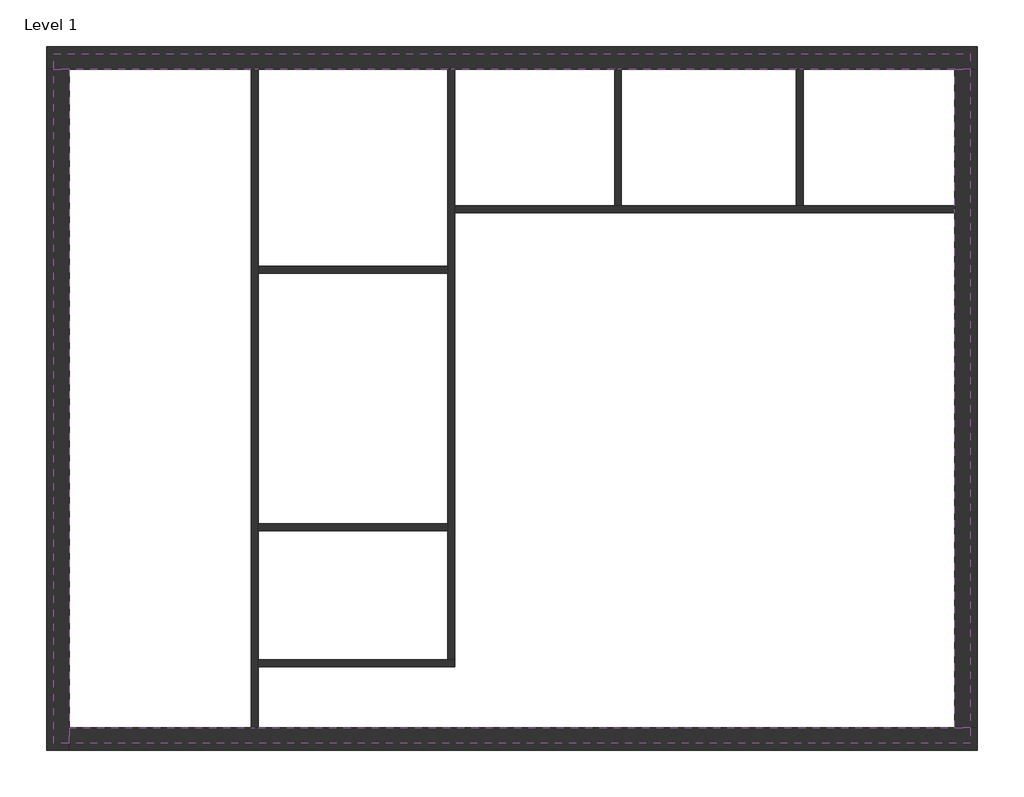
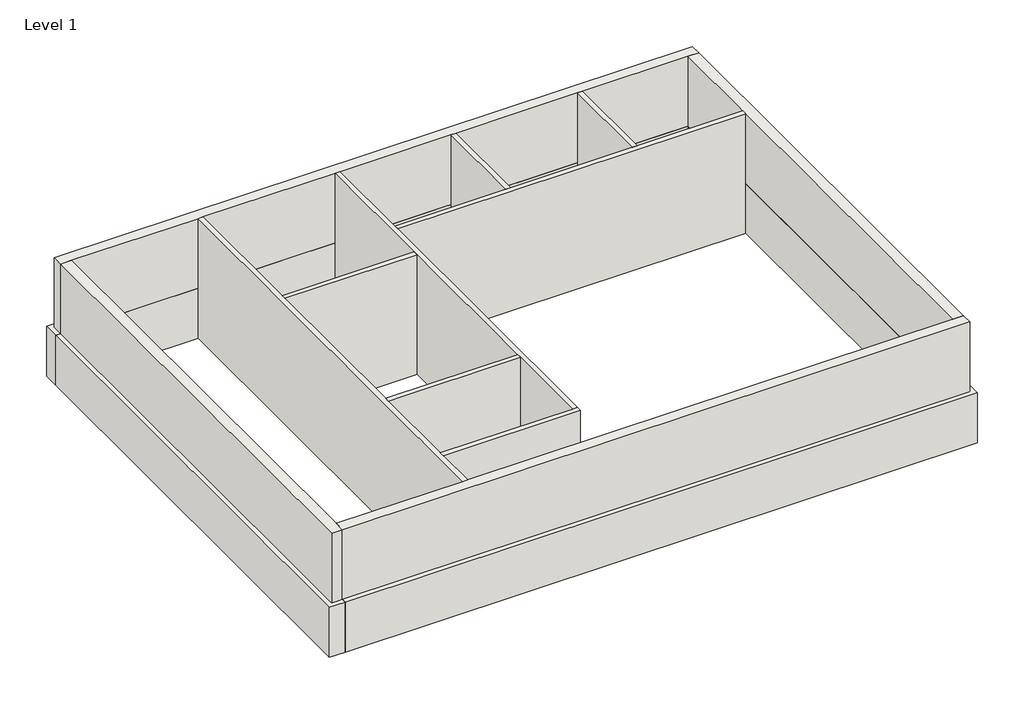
# One storey: 16 walls.
"""IFC4 building model written with IfcOpenShell, lengths in millimetres."""

import ifcopenshell
import ifcopenshell.guid

model = None  # the IFC model being written
_history = None  # IfcOwnerHistory: only IFC2X3 demands one
_inside = {}  # id of a spatial element -> (the spatial element, [elements in it])
_under = {}  # id of a project, library or spatial element -> (it, [spatial elements below it])
_declared = {}  # id of a project -> (the project, [libraries it declares])
_typed = {}  # id of a type object -> (the type object, [elements of that type])
_made_of = {}  # id of a material, layer set ... -> (it, [elements and type objects made of it])


def new_model(schema):
    """Start an empty IFC model of exactly this schema.

    Asked for "IFC4X3", IfcOpenShell would pick the latest addendum, in which some entities
    have other attributes; the version numbers below select the first issue.
    IFC2X3 requires an IfcOwnerHistory on every rooted entity: one is made here for all.
    """
    global model, _history
    if schema == "IFC4X3":
        model = ifcopenshell.file(schema_version=(4, 3, 0, 0))
    else:
        model = ifcopenshell.file(schema=schema)
    _inside.clear()
    _under.clear()
    _declared.clear()
    _typed.clear()
    _made_of.clear()
    _history = None
    if model.schema == "IFC2X3":
        org = make("IfcOrganization", Name="unknown")
        user = make(
            "IfcPersonAndOrganization",
            ThePerson=make("IfcPerson", FamilyName="unknown"),
            TheOrganization=org,
        )
        app = make(
            "IfcApplication",
            ApplicationDeveloper=org,
            Version="unknown",
            ApplicationFullName="unknown",
            ApplicationIdentifier="unknown",
        )
        _history = make(
            "IfcOwnerHistory",
            OwningUser=user,
            OwningApplication=app,
            ChangeAction="ADDED",
            CreationDate=0,
        )
    return model


def make(cls, **values):
    """One entity of the class cls with the attributes given. An attribute that is None is left unset."""
    return model.create_entity(
        cls, **{name: value for name, value in values.items() if value is not None}
    )


def rooted(cls, **values):
    """An entity with a GlobalId (a new one), such as an element, a storey or a relation."""
    return make(cls, GlobalId=ifcopenshell.guid.new(), OwnerHistory=_history, **values)


def si_unit(unit_type, name, prefix=None):
    """IfcSIUnit, for example si_unit("LENGTHUNIT", "METRE", prefix="MILLI")."""
    return make("IfcSIUnit", UnitType=unit_type, Prefix=prefix, Name=name)


def assignment(units):
    """IfcUnitAssignment: the units of a project."""
    return None if units is None else make("IfcUnitAssignment", Units=units)


def point(xyz):
    """IfcCartesianPoint."""
    return None if xyz is None else make("IfcCartesianPoint", Coordinates=xyz)


def direction(xyz):
    """IfcDirection."""
    return None if xyz is None else make("IfcDirection", DirectionRatios=xyz)


def frame(location, z_axis=None, x_axis=None):
    """IfcAxis2Placement3D, a coordinate frame: its origin and axes. An axis left out is left unset."""
    return make(
        "IfcAxis2Placement3D",
        Location=point(location),
        Axis=direction(z_axis),
        RefDirection=direction(x_axis),
    )


def origin():
    """The frame at (0, 0, 0) with its axes left unset."""
    return frame((0.0, 0.0, 0.0))


def origin_with_axes():
    """The frame at (0, 0, 0) with the z axis (0, 0, 1) and the x axis (1, 0, 0) written out."""
    return frame((0.0, 0.0, 0.0), z_axis=(0.0, 0.0, 1.0), x_axis=(1.0, 0.0, 0.0))


def place(relative_to, where):
    """IfcLocalPlacement: puts the frame where relative to a parent placement (None: the world)."""
    return make(
        "IfcLocalPlacement", PlacementRelTo=relative_to, RelativePlacement=where
    )


def context(
    kind, dimensions, precision=None, world=None, true_north=None, identifier=None
):
    """IfcGeometricRepresentationContext, for example the 3D "Model" context."""
    return make(
        "IfcGeometricRepresentationContext",
        ContextIdentifier=identifier,
        ContextType=kind,
        CoordinateSpaceDimension=dimensions,
        Precision=precision,
        WorldCoordinateSystem=world,
        TrueNorth=true_north,
    )


def project(units=None, contexts=None):
    """IfcProject with its units and contexts."""
    return rooted(
        "IfcProject",
        Name="project",
        RepresentationContexts=contexts,
        UnitsInContext=assignment(units),
    )


def spatial(cls, under=None, at=None, **own):
    """A site, building, storey or space (cls), placed at a placement, below another one or the project."""
    s = rooted(cls, ObjectPlacement=at, **own)
    if under is not None:
        _under.setdefault(under.id(), (under, []))[1].append(s)
    return s


def polyline(points):
    """IfcPolyline through the points."""
    return make("IfcPolyline", Points=[point(p) for p in points])


def outline(outer, holes=None, kind="AREA"):
    """IfcArbitraryClosedProfileDef: a profile drawn as a closed curve; with holes, ...WithVoids."""
    if holes is None:
        return make("IfcArbitraryClosedProfileDef", ProfileType=kind, OuterCurve=outer)
    return make(
        "IfcArbitraryProfileDefWithVoids",
        ProfileType=kind,
        OuterCurve=outer,
        InnerCurves=holes,
    )


def extrude(swept, where, along, depth):
    """IfcExtrudedAreaSolid: the profile swept, set in the frame where, extruded along a direction by depth."""
    return make(
        "IfcExtrudedAreaSolid",
        SweptArea=swept,
        Position=where,
        ExtrudedDirection=direction(along),
        Depth=depth,
    )


def faces_of(points, faces, orient=None, outer=None):
    """IfcFace entities. A face is a list of loops; a loop is a list of indices into points, from 0.

    orient and outer hold one flag for each loop. By default every Orientation is true, the
    first loop of a face is its IfcFaceOuterBound and the others are IfcFaceBound.
    """
    made = []
    for i, loops in enumerate(faces):
        bounds = []
        for j, loop in enumerate(loops):
            is_outer = j == 0 if outer is None else outer[i][j]
            bounds.append(
                make(
                    "IfcFaceOuterBound" if is_outer else "IfcFaceBound",
                    Bound=make("IfcPolyLoop", Polygon=[points[k] for k in loop]),
                    Orientation=True if orient is None else orient[i][j],
                )
            )
        made.append(make("IfcFace", Bounds=bounds))
    return made


def faceted_brep(points, faces, orient=None, outer=None, voids=None):
    """IfcFacetedBrep: a solid bounded by flat faces; with voids (closed shells), ...WithVoids."""
    shared = [point(p) for p in points]
    hull = make("IfcClosedShell", CfsFaces=faces_of(shared, faces, orient, outer))
    if voids is None:
        return make("IfcFacetedBrep", Outer=hull)
    return make(
        "IfcFacetedBrepWithVoids",
        Outer=hull,
        Voids=[
            make(cls, CfsFaces=faces_of(shared, fs, o, b)) for cls, fs, o, b in voids
        ],
    )


def shape(context_of_items, identifier, shape_type, items):
    """IfcShapeRepresentation: the items that make up one representation, for example the "Body"."""
    return make(
        "IfcShapeRepresentation",
        ContextOfItems=context_of_items,
        RepresentationIdentifier=identifier,
        RepresentationType=shape_type,
        Items=items,
    )


def made_of(thing, what):
    """Note that an element or type object is made of a material, layer set ...; save() writes the relation."""
    if what is not None:
        _made_of.setdefault(what.id(), (what, []))[1].append(thing)
    return thing


def element(
    cls,
    number,
    at=None,
    inside=None,
    cuts=None,
    type_object=None,
    material=None,
    context=None,
    identifier="Body",
    shape_type=None,
    held_by="IfcProductDefinitionShape",
    body=None,
    shapes=None,
    **own,
):
    """One element of the class cls, such as IfcWall. Its Tag is "e" and its number.

    at: its placement. inside: the storey or other place that contains it. cuts: it is an
    opening in that element (IfcRelVoidsElement). A single representation is given by context,
    identifier, shape_type and body (its items); several are given by shapes. held_by: the class
    of the entity that holds the representations. save() writes the other relations.
    """
    e = rooted(cls, Tag="e%d" % number, ObjectPlacement=at, **own)
    if body is not None:
        shapes = [shape(context, identifier, shape_type, body)]
    if shapes is not None:
        e.Representation = make(held_by, Representations=shapes)
    if inside is not None:
        _inside.setdefault(inside.id(), (inside, []))[1].append(e)
    if cuts is not None:
        rooted(
            "IfcRelVoidsElement", RelatingBuildingElement=cuts, RelatedOpeningElement=e
        )
    if type_object is not None:
        _typed.setdefault(type_object.id(), (type_object, []))[1].append(e)
    return made_of(e, material)


def aggregate(whole, parts):
    """IfcRelAggregates: a whole, such as a stair, and the parts it consists of."""
    return rooted("IfcRelAggregates", RelatingObject=whole, RelatedObjects=parts)


def save(model, path):
    """Write the relations noted so far, then the file.

    IfcRelAggregates (storeys below a building ...), IfcRelContainedInSpatialStructure (elements
    in a storey), IfcRelDefinesByType, IfcRelAssociatesMaterial and IfcRelDeclares: one each for
    every whole, place, type object, material and project.
    """
    for whole, parts in _under.values():
        aggregate(whole, parts)
    for where, things in _inside.values():
        rooted(
            "IfcRelContainedInSpatialStructure",
            RelatedElements=things,
            RelatingStructure=where,
        )
    for kind, things in _typed.values():
        rooted("IfcRelDefinesByType", RelatedObjects=things, RelatingType=kind)
    for what, things in _made_of.values():
        rooted("IfcRelAssociatesMaterial", RelatedObjects=things, RelatingMaterial=what)
    for by, libraries in _declared.values():
        rooted("IfcRelDeclares", RelatingContext=by, RelatedDefinitions=libraries)
    model.write(path)


model = new_model("IFC4")

# Units and contexts
model_context = context("Model", 3, world=origin())
ifc_project = project(units=[si_unit("LENGTHUNIT", "METRE", prefix="MILLI")], contexts=[model_context])

# Site, building, storey
site = spatial("IfcSite", under=ifc_project)
building = spatial("IfcBuilding", under=site)
storey = spatial("IfcBuildingStorey", under=building, Name="Level 1", Elevation=0.0)

# Walls
placement = place(None, origin())
element("IfcWall", 1, ObjectType="Exterior - CMU on Mtl. Stud", at=placement, inside=storey, context=model_context, shape_type="Brep", body=[
    faceted_brep([(-18418.3972136, 11690.2580992, 0.0), (-17964.3722136, 11690.2580992, 0.0), (-14298.8347136, 11690.2580992, 0.0), (-14159.1347136, 11690.2580992, 0.0), (-10336.4347136, 11690.2580992, 0.0), (-10196.7347136, 11690.2580992, 0.0), (-6983.6347136, 11690.2580992, 0.0), (-6843.9347136, 11690.2580992, 0.0), (-3326.0347136, 11690.2580992, 0.0), (-3186.3347136, 11690.2580992, 0.0), (-130.3972136, 11690.2580992, 0.0), (323.6277864, 11690.2580992, 0.0), (323.6277864, 11690.2580992, 1524.0), (180.7527864, 11690.2580992, 1524.0), (-130.3972136, 11690.2580992, 1524.0), (-17964.3722136, 11690.2580992, 1524.0), (-18275.5222136, 11690.2580992, 1524.0), (-18418.3972136, 11690.2580992, 1524.0), (-18418.3972136, 12144.2830992, 0.0), (-18418.3972136, 12144.2830992, 1524.0), (323.6277864, 12144.2830992, 1524.0), (323.6277864, 12144.2830992, 0.0)], [[[0, 1, 2, 3, 4, 5, 6, 7, 8, 9, 10, 11, 12, 13, 14, 15, 16, 17]], [[18, 19, 20, 21]], [[11, 10, 9, 8, 7, 6, 5, 4, 3, 2, 1, 0, 18, 21]], [[17, 16, 15, 14, 13, 12, 20, 19]], [[0, 17, 19, 18]], [[12, 11, 21, 20]]]),
])
element("IfcWall", 2, ObjectType="Exterior - CMU on Mtl. Stud", at=placement, inside=storey, context=model_context, shape_type="Brep", body=[
    faceted_brep([(-17964.3722136, -2025.7419008, 0.0), (-17964.3722136, -1571.7169008, 0.0), (-17964.3722136, 11690.2580992, 0.0), (-17964.3722136, 11690.2580992, 1524.0), (-17964.3722136, -1571.7169008, 1524.0), (-17964.3722136, -1882.8669008, 1524.0), (-17964.3722136, -2025.7419008, 1524.0), (-18418.3972136, -2025.7419008, 0.0), (-18418.3972136, -2025.7419008, 1524.0), (-18418.3972136, 11690.2580992, 1524.0), (-18418.3972136, 11690.2580992, 0.0), (-18275.5222136, 11690.2580992, 1524.0)], [[[0, 1, 2, 3, 4, 5, 6]], [[7, 8, 9, 10]], [[2, 1, 0, 7, 10]], [[6, 5, 4, 3, 11, 9, 8]], [[0, 6, 8, 7]], [[3, 2, 10, 9, 11]]]),
])
element("IfcWall", 3, ObjectType="Exterior - CMU on Mtl. Stud", at=placement, inside=storey, context=model_context, shape_type="Brep", body=[
    faceted_brep([(323.6277864, -1571.7169008, 0.0), (-130.3972136, -1571.7169008, 0.0), (-14159.1347136, -1571.7169008, 0.0), (-14298.8347136, -1571.7169008, 0.0), (-17964.3722136, -1571.7169008, 0.0), (-17964.3722136, -1571.7169008, 1524.0), (-130.3972136, -1571.7169008, 1524.0), (180.7527864, -1571.7169008, 1524.0), (323.6277864, -1571.7169008, 1524.0), (323.6277864, -2025.7419008, 0.0), (323.6277864, -2025.7419008, 1524.0), (-17964.3722136, -2025.7419008, 1524.0), (-17964.3722136, -2025.7419008, 0.0), (-17964.3722136, -1882.8669008, 1524.0)], [[[0, 1, 2, 3, 4, 5, 6, 7, 8]], [[9, 10, 11, 12]], [[4, 3, 2, 1, 0, 9, 12]], [[8, 7, 6, 5, 13, 11, 10]], [[0, 8, 10, 9]], [[5, 4, 12, 11, 13]]]),
])
element("IfcWall", 4, ObjectType="Exterior - CMU on Mtl. Stud", at=placement, inside=storey, context=model_context, shape_type="Brep", body=[
    faceted_brep([(-130.3972136, 11690.2580992, 0.0), (-130.3972136, 8939.1205992, 0.0), (-130.3972136, 8799.4205992, 0.0), (-130.3972136, -1571.7169008, 0.0), (-130.3972136, -1571.7169008, 1524.0), (-130.3972136, 11690.2580992, 1524.0), (323.6277864, 11690.2580992, 0.0), (323.6277864, 11690.2580992, 1524.0), (323.6277864, -1571.7169008, 1524.0), (323.6277864, -1571.7169008, 0.0), (180.7527864, -1571.7169008, 1524.0), (180.7527864, 11690.2580992, 1524.0)], [[[0, 1, 2, 3, 4, 5]], [[6, 7, 8, 9]], [[3, 2, 1, 0, 6, 9]], [[5, 4, 10, 8, 7, 11]], [[0, 5, 11, 7, 6]], [[4, 3, 9, 8, 10]]]),
])
element("IfcWall", 5, ObjectType="Exterior - EIFS on Mtl. Stud", at=placement, inside=storey, context=model_context, shape_type="Brep", body=[
    faceted_brep([(-18275.5222136, 11690.2580992, 1524.0), (-17964.3722136, 11690.2580992, 1524.0), (-130.3972136, 11690.2580992, 1524.0), (180.7527864, 11690.2580992, 1524.0), (180.7527864, 11690.2580992, 3657.6), (-130.3972136, 11690.2580992, 3657.6), (-3186.3347136, 11690.2580992, 3657.6), (-3326.0347136, 11690.2580992, 3657.6), (-6843.9347136, 11690.2580992, 3657.6), (-6983.6347136, 11690.2580992, 3657.6), (-10196.7347136, 11690.2580992, 3657.6), (-10336.4347136, 11690.2580992, 3657.6), (-14159.1347136, 11690.2580992, 3657.6), (-14298.8347136, 11690.2580992, 3657.6), (-17964.3722136, 11690.2580992, 3657.6), (-18275.5222136, 11690.2580992, 3657.6), (-18275.5222136, 12001.4080992, 1524.0), (-18275.5222136, 12001.4080992, 3657.6), (180.7527864, 12001.4080992, 3657.6), (180.7527864, 12001.4080992, 1524.0)], [[[0, 1, 2, 3, 4, 5, 6, 7, 8, 9, 10, 11, 12, 13, 14, 15]], [[16, 17, 18, 19]], [[3, 2, 1, 0, 16, 19]], [[15, 14, 13, 12, 11, 10, 9, 8, 7, 6, 5, 4, 18, 17]], [[0, 15, 17, 16]], [[4, 3, 19, 18]]]),
])
element("IfcWall", 6, ObjectType="Exterior - EIFS on Mtl. Stud", at=placement, inside=storey, context=model_context, shape_type="Brep", body=[
    faceted_brep([(-17964.3722136, -1882.8669008, 1524.0), (-17964.3722136, -1571.7169008, 1524.0), (-17964.3722136, 11690.2580992, 1524.0), (-17964.3722136, 11690.2580992, 3657.6), (-17964.3722136, -1571.7169008, 3657.6), (-17964.3722136, -1882.8669008, 3657.6), (-18275.5222136, -1882.8669008, 1524.0), (-18275.5222136, -1882.8669008, 3657.6), (-18275.5222136, 11690.2580992, 3657.6), (-18275.5222136, 11690.2580992, 1524.0)], [[[0, 1, 2, 3, 4, 5]], [[6, 7, 8, 9]], [[2, 1, 0, 6, 9]], [[5, 4, 3, 8, 7]], [[0, 5, 7, 6]], [[3, 2, 9, 8]]]),
])
element("IfcWall", 7, ObjectType="Exterior - EIFS on Mtl. Stud", at=placement, inside=storey, context=model_context, shape_type="Brep", body=[
    faceted_brep([(180.7527864, -1571.7169008, 1524.0), (-130.3972136, -1571.7169008, 1524.0), (-17964.3722136, -1571.7169008, 1524.0), (-17964.3722136, -1571.7169008, 3657.6), (-14298.8347136, -1571.7169008, 3657.6), (-14159.1347136, -1571.7169008, 3657.6), (-130.3972136, -1571.7169008, 3657.6), (180.7527864, -1571.7169008, 3657.6), (180.7527864, -1882.8669008, 1524.0), (180.7527864, -1882.8669008, 3657.6), (-17964.3722136, -1882.8669008, 3657.6), (-17964.3722136, -1882.8669008, 1524.0)], [[[0, 1, 2, 3, 4, 5, 6, 7]], [[8, 9, 10, 11]], [[2, 1, 0, 8, 11]], [[7, 6, 5, 4, 3, 10, 9]], [[0, 7, 9, 8]], [[3, 2, 11, 10]]]),
])
element("IfcWall", 8, ObjectType="Exterior - EIFS on Mtl. Stud", at=placement, inside=storey, context=model_context, shape_type="Brep", body=[
    faceted_brep([(-130.3972136, 11690.2580992, 1524.0), (-130.3972136, -1571.7169008, 1524.0), (-130.3972136, -1571.7169008, 3657.6), (-130.3972136, 8799.4205992, 3657.6), (-130.3972136, 8939.1205992, 3657.6), (-130.3972136, 11690.2580992, 3657.6), (180.7527864, 11690.2580992, 1524.0), (180.7527864, 11690.2580992, 3657.6), (180.7527864, -1571.7169008, 3657.6), (180.7527864, -1571.7169008, 1524.0)], [[[0, 1, 2, 3, 4, 5]], [[6, 7, 8, 9]], [[1, 0, 6, 9]], [[5, 4, 3, 2, 8, 7]], [[0, 5, 7, 6]], [[2, 1, 9, 8]]]),
])
element("IfcWall", 9, ObjectType="Interior - 5 1/2\" Partition (1-hr)", at=placement, inside=storey, context=model_context, shape_type="Brep", body=[
    faceted_brep([(-14298.8347136, 11690.2580992, 3657.6), (-14298.8347136, 11690.2580992, 0.0), (-14298.8347136, -1571.7169008, 0.0), (-14298.8347136, -1571.7169008, 3657.6), (-14159.1347136, 11690.2580992, 0.0), (-14159.1347136, 11690.2580992, 3657.6), (-14159.1347136, 7719.9205992, 3657.6), (-14159.1347136, 7580.2205992, 3657.6), (-14159.1347136, 2538.3205992, 3657.6), (-14159.1347136, 2398.6205992, 3657.6), (-14159.1347136, -204.8794008, 3657.6), (-14159.1347136, -344.5794008, 3657.6), (-14159.1347136, -1571.7169008, 3657.6), (-14159.1347136, -1571.7169008, 0.0), (-14159.1347136, -344.5794008, 0.0), (-14159.1347136, -204.8794008, 0.0), (-14159.1347136, 2398.6205992, 0.0), (-14159.1347136, 2538.3205992, 0.0), (-14159.1347136, 7580.2205992, 0.0), (-14159.1347136, 7719.9205992, 0.0)], [[[0, 1, 2, 3]], [[4, 5, 6, 7, 8, 9, 10, 11, 12, 13, 14, 15, 16, 17, 18, 19]], [[2, 1, 4, 19, 18, 17, 16, 15, 14, 13]], [[0, 3, 12, 11, 10, 9, 8, 7, 6, 5]], [[0, 5, 4, 1]], [[2, 13, 12, 3]]]),
])
element("IfcWall", 10, ObjectType="Interior - 5 1/2\" Partition (1-hr)", at=placement, inside=storey, context=model_context, shape_type="Brep", body=[
    faceted_brep([(-14159.1347136, -344.5794008, 0.0), (-10196.7347136, -344.5794008, 0.0), (-10196.7347136, -344.5794008, 3657.6), (-14159.1347136, -344.5794008, 3657.6), (-14159.1347136, -204.8794008, 0.0), (-14159.1347136, -204.8794008, 3657.6), (-10336.4347136, -204.8794008, 3657.6), (-10196.7347136, -204.8794008, 3657.6), (-10196.7347136, -204.8794008, 0.0), (-10336.4347136, -204.8794008, 0.0)], [[[0, 1, 2, 3]], [[4, 5, 6, 7, 8, 9]], [[1, 0, 4, 9, 8]], [[3, 2, 7, 6, 5]], [[0, 3, 5, 4]], [[2, 1, 8, 7]]]),
])
element("IfcWall", 11, ObjectType="Interior - 5 1/2\" Partition (1-hr)", at=placement, inside=storey, context=model_context, shape_type="Brep", body=[
    faceted_brep([(-10196.7347136, -204.8794008, 0.0), (-10196.7347136, 8799.4205992, 0.0), (-10196.7347136, 8939.1205992, 0.0), (-10196.7347136, 11690.2580992, 0.0), (-10196.7347136, 11690.2580992, 3657.6), (-10196.7347136, 8939.1205992, 3657.6), (-10196.7347136, 8799.4205992, 3657.6), (-10196.7347136, -204.8794008, 3657.6), (-10336.4347136, -204.8794008, 0.0), (-10336.4347136, -204.8794008, 3657.6), (-10336.4347136, 2398.6205992, 3657.6), (-10336.4347136, 2538.3205992, 3657.6), (-10336.4347136, 7580.2205992, 3657.6), (-10336.4347136, 7719.9205992, 3657.6), (-10336.4347136, 11690.2580992, 3657.6), (-10336.4347136, 11690.2580992, 0.0), (-10336.4347136, 7719.9205992, 0.0), (-10336.4347136, 7580.2205992, 0.0), (-10336.4347136, 2538.3205992, 0.0), (-10336.4347136, 2398.6205992, 0.0)], [[[0, 1, 2, 3, 4, 5, 6, 7]], [[8, 9, 10, 11, 12, 13, 14, 15, 16, 17, 18, 19]], [[3, 2, 1, 0, 8, 19, 18, 17, 16, 15]], [[7, 6, 5, 4, 14, 13, 12, 11, 10, 9]], [[0, 7, 9, 8]], [[3, 15, 14, 4]]]),
])
element("IfcWall", 12, ObjectType="Interior - 5 1/2\" Partition (1-hr)", at=placement, inside=storey, context=model_context, shape_type="Brep", body=[
    faceted_brep([(-130.3972136, 8939.1205992, 3657.6), (-130.3972136, 8939.1205992, 0.0), (-3186.3347136, 8939.1205992, 0.0), (-3326.0347136, 8939.1205992, 0.0), (-6843.9347136, 8939.1205992, 0.0), (-6983.6347136, 8939.1205992, 0.0), (-10196.7347136, 8939.1205992, 0.0), (-10196.7347136, 8939.1205992, 3657.6), (-6983.6347136, 8939.1205992, 3657.6), (-6843.9347136, 8939.1205992, 3657.6), (-3326.0347136, 8939.1205992, 3657.6), (-3186.3347136, 8939.1205992, 3657.6), (-130.3972136, 8799.4205992, 0.0), (-130.3972136, 8799.4205992, 3657.6), (-10196.7347136, 8799.4205992, 3657.6), (-10196.7347136, 8799.4205992, 0.0)], [[[0, 1, 2, 3, 4, 5, 6, 7, 8, 9, 10, 11]], [[12, 13, 14, 15]], [[6, 5, 4, 3, 2, 1, 12, 15]], [[0, 11, 10, 9, 8, 7, 14, 13]], [[0, 13, 12, 1]], [[7, 6, 15, 14]]]),
])
element("IfcWall", 13, ObjectType="Interior - 5 1/2\" Partition (1-hr)", at=placement, inside=storey, context=model_context, shape_type="SweptSolid", body=[
    extrude(outline(polyline([(-10336.4347136, 7580.2205992), (-14159.1347136, 7580.2205992), (-14159.1347136, 7719.9205992), (-10336.4347136, 7719.9205992), (-10336.4347136, 7580.2205992)])), origin_with_axes(), (0.0, 0.0, 1.0), 3657.6),
])
element("IfcWall", 14, ObjectType="Interior - 5 1/2\" Partition (1-hr)", at=placement, inside=storey, context=model_context, shape_type="SweptSolid", body=[
    extrude(outline(polyline([(-10336.4347136, 2398.6205992), (-14159.1347136, 2398.6205992), (-14159.1347136, 2538.3205992), (-10336.4347136, 2538.3205992), (-10336.4347136, 2398.6205992)])), origin_with_axes(), (0.0, 0.0, 1.0), 3657.6),
])
element("IfcWall", 15, ObjectType="Interior - 5 1/2\" Partition (1-hr)", at=placement, inside=storey, context=model_context, shape_type="SweptSolid", body=[
    extrude(outline(polyline([(-3326.0347136, 8939.1205992), (-3326.0347136, 11690.2580992), (-3186.3347136, 11690.2580992), (-3186.3347136, 8939.1205992), (-3326.0347136, 8939.1205992)])), origin_with_axes(), (0.0, 0.0, 1.0), 3657.6),
])
element("IfcWall", 16, ObjectType="Interior - 5 1/2\" Partition (1-hr)", at=placement, inside=storey, context=model_context, shape_type="SweptSolid", body=[
    extrude(outline(polyline([(-6983.6347136, 8939.1205992), (-6983.6347136, 11690.2580992), (-6843.9347136, 11690.2580992), (-6843.9347136, 8939.1205992), (-6983.6347136, 8939.1205992)])), origin_with_axes(), (0.0, 0.0, 1.0), 3657.6),
])

save(model, "model.ifc")
